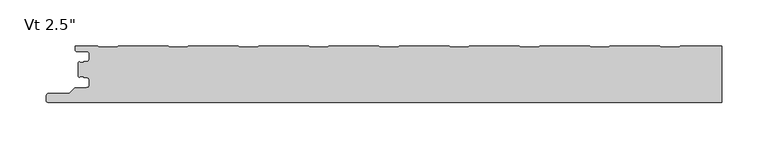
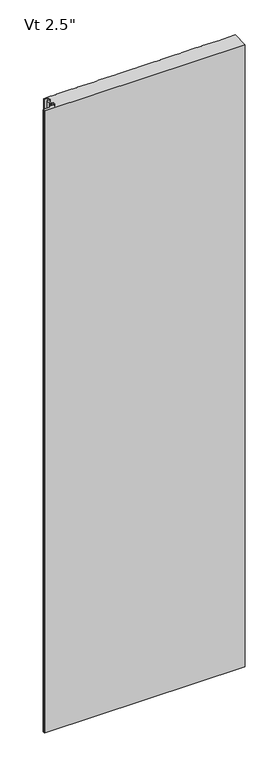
"""IFC4 building model written with IfcOpenShell, lengths in millimetres: plate geometry."""

import ifcopenshell
import ifcopenshell.guid

model = None  # the IFC model being written
_history = None  # IfcOwnerHistory: only IFC2X3 demands one
_inside = {}  # id of a spatial element -> (the spatial element, [elements in it])
_under = {}  # id of a project, library or spatial element -> (it, [spatial elements below it])
_declared = {}  # id of a project -> (the project, [libraries it declares])
_typed = {}  # id of a type object -> (the type object, [elements of that type])
_made_of = {}  # id of a material, layer set ... -> (it, [elements and type objects made of it])


def new_model(schema):
    """Start an empty IFC model of exactly this schema.

    Asked for "IFC4X3", IfcOpenShell would pick the latest addendum, in which some entities
    have other attributes; the version numbers below select the first issue.
    IFC2X3 requires an IfcOwnerHistory on every rooted entity: one is made here for all.
    """
    global model, _history
    if schema == "IFC4X3":
        model = ifcopenshell.file(schema_version=(4, 3, 0, 0))
    else:
        model = ifcopenshell.file(schema=schema)
    _inside.clear()
    _under.clear()
    _declared.clear()
    _typed.clear()
    _made_of.clear()
    _history = None
    if model.schema == "IFC2X3":
        org = make("IfcOrganization", Name="unknown")
        user = make(
            "IfcPersonAndOrganization",
            ThePerson=make("IfcPerson", FamilyName="unknown"),
            TheOrganization=org,
        )
        app = make(
            "IfcApplication",
            ApplicationDeveloper=org,
            Version="unknown",
            ApplicationFullName="unknown",
            ApplicationIdentifier="unknown",
        )
        _history = make(
            "IfcOwnerHistory",
            OwningUser=user,
            OwningApplication=app,
            ChangeAction="ADDED",
            CreationDate=0,
        )
    return model


def make(cls, **values):
    """One entity of the class cls with the attributes given. An attribute that is None is left unset."""
    return model.create_entity(
        cls, **{name: value for name, value in values.items() if value is not None}
    )


def rooted(cls, **values):
    """An entity with a GlobalId (a new one), such as an element, a storey or a relation."""
    return make(cls, GlobalId=ifcopenshell.guid.new(), OwnerHistory=_history, **values)


def si_unit(unit_type, name, prefix=None):
    """IfcSIUnit, for example si_unit("LENGTHUNIT", "METRE", prefix="MILLI")."""
    return make("IfcSIUnit", UnitType=unit_type, Prefix=prefix, Name=name)


def assignment(units):
    """IfcUnitAssignment: the units of a project."""
    return None if units is None else make("IfcUnitAssignment", Units=units)


def point(xyz):
    """IfcCartesianPoint."""
    return None if xyz is None else make("IfcCartesianPoint", Coordinates=xyz)


def direction(xyz):
    """IfcDirection."""
    return None if xyz is None else make("IfcDirection", DirectionRatios=xyz)


def frame(location, z_axis=None, x_axis=None):
    """IfcAxis2Placement3D, a coordinate frame: its origin and axes. An axis left out is left unset."""
    return make(
        "IfcAxis2Placement3D",
        Location=point(location),
        Axis=direction(z_axis),
        RefDirection=direction(x_axis),
    )


def origin():
    """The frame at (0, 0, 0) with its axes left unset."""
    return frame((0.0, 0.0, 0.0))


def place(relative_to, where):
    """IfcLocalPlacement: puts the frame where relative to a parent placement (None: the world)."""
    return make(
        "IfcLocalPlacement", PlacementRelTo=relative_to, RelativePlacement=where
    )


def context(
    kind, dimensions, precision=None, world=None, true_north=None, identifier=None
):
    """IfcGeometricRepresentationContext, for example the 3D "Model" context."""
    return make(
        "IfcGeometricRepresentationContext",
        ContextIdentifier=identifier,
        ContextType=kind,
        CoordinateSpaceDimension=dimensions,
        Precision=precision,
        WorldCoordinateSystem=world,
        TrueNorth=true_north,
    )


def project(units=None, contexts=None):
    """IfcProject with its units and contexts."""
    return rooted(
        "IfcProject",
        Name="project",
        RepresentationContexts=contexts,
        UnitsInContext=assignment(units),
    )


def spatial(cls, under=None, at=None, **own):
    """A site, building, storey or space (cls), placed at a placement, below another one or the project."""
    s = rooted(cls, ObjectPlacement=at, **own)
    if under is not None:
        _under.setdefault(under.id(), (under, []))[1].append(s)
    return s


def polyline(points):
    """IfcPolyline through the points."""
    return make("IfcPolyline", Points=[point(p) for p in points])


def circle_curve(where, radius):
    """IfcCircle in the frame where."""
    return make("IfcCircle", Position=where, Radius=radius)


def shape(context_of_items, identifier, shape_type, items):
    """IfcShapeRepresentation: the items that make up one representation, for example the "Body"."""
    return make(
        "IfcShapeRepresentation",
        ContextOfItems=context_of_items,
        RepresentationIdentifier=identifier,
        RepresentationType=shape_type,
        Items=items,
    )


def source(mapping_origin, context_of_items, identifier, shape_type, items):
    """IfcRepresentationMap: a shape defined once, which mapped items show again and again."""
    return make(
        "IfcRepresentationMap",
        MappingOrigin=mapping_origin,
        MappedRepresentation=shape(context_of_items, identifier, shape_type, items),
    )


def transform(
    local_origin,
    x_axis=None,
    y_axis=None,
    z_axis=None,
    scale=None,
    scale2=None,
    scale3=None,
    uniform=True,
):
    """IfcCartesianTransformationOperator3D, or its non-uniform kind. x_axis, y_axis, z_axis: its Axis1, 2, 3."""
    if uniform:
        return make(
            "IfcCartesianTransformationOperator3D",
            Axis1=direction(x_axis),
            Axis2=direction(y_axis),
            LocalOrigin=point(local_origin),
            Scale=scale,
            Axis3=direction(z_axis),
        )
    return make(
        "IfcCartesianTransformationOperator3DnonUniform",
        Axis1=direction(x_axis),
        Axis2=direction(y_axis),
        LocalOrigin=point(local_origin),
        Scale=scale,
        Axis3=direction(z_axis),
        Scale2=scale2,
        Scale3=scale3,
    )


def mapped(mapping_source, mapping_target):
    """IfcMappedItem: shows the shape of a source again, moved by a transform."""
    return make(
        "IfcMappedItem", MappingSource=mapping_source, MappingTarget=mapping_target
    )


def made_of(thing, what):
    """Note that an element or type object is made of a material, layer set ...; save() writes the relation."""
    if what is not None:
        _made_of.setdefault(what.id(), (what, []))[1].append(thing)
    return thing


def element(
    cls,
    number,
    at=None,
    inside=None,
    cuts=None,
    type_object=None,
    material=None,
    context=None,
    identifier="Body",
    shape_type=None,
    held_by="IfcProductDefinitionShape",
    body=None,
    shapes=None,
    **own,
):
    """One element of the class cls, such as IfcWall. Its Tag is "e" and its number.

    at: its placement. inside: the storey or other place that contains it. cuts: it is an
    opening in that element (IfcRelVoidsElement). A single representation is given by context,
    identifier, shape_type and body (its items); several are given by shapes. held_by: the class
    of the entity that holds the representations. save() writes the other relations.
    """
    e = rooted(cls, Tag="e%d" % number, ObjectPlacement=at, **own)
    if body is not None:
        shapes = [shape(context, identifier, shape_type, body)]
    if shapes is not None:
        e.Representation = make(held_by, Representations=shapes)
    if inside is not None:
        _inside.setdefault(inside.id(), (inside, []))[1].append(e)
    if cuts is not None:
        rooted(
            "IfcRelVoidsElement", RelatingBuildingElement=cuts, RelatedOpeningElement=e
        )
    if type_object is not None:
        _typed.setdefault(type_object.id(), (type_object, []))[1].append(e)
    return made_of(e, material)


def aggregate(whole, parts):
    """IfcRelAggregates: a whole, such as a stair, and the parts it consists of."""
    return rooted("IfcRelAggregates", RelatingObject=whole, RelatedObjects=parts)


def save(model, path):
    """Write the relations noted so far, then the file.

    IfcRelAggregates (storeys below a building ...), IfcRelContainedInSpatialStructure (elements
    in a storey), IfcRelDefinesByType, IfcRelAssociatesMaterial and IfcRelDeclares: one each for
    every whole, place, type object, material and project.
    """
    for whole, parts in _under.values():
        aggregate(whole, parts)
    for where, things in _inside.values():
        rooted(
            "IfcRelContainedInSpatialStructure",
            RelatedElements=things,
            RelatingStructure=where,
        )
    for kind, things in _typed.values():
        rooted("IfcRelDefinesByType", RelatedObjects=things, RelatingType=kind)
    for what, things in _made_of.values():
        rooted("IfcRelAssociatesMaterial", RelatedObjects=things, RelatingMaterial=what)
    for by, libraries in _declared.values():
        rooted("IfcRelDeclares", RelatingContext=by, RelatedDefinitions=libraries)
    model.write(path)


def plane_surface(at):
    """IfcPlane: the flat surface through the origin of the frame at, square to its z axis."""
    return make("IfcPlane", Position=at)


def cylinder_surface(at, radius):
    """IfcCylindricalSurface: all points at the distance radius from the z axis of the frame at."""
    return make("IfcCylindricalSurface", Position=at, Radius=radius)


def revolved_surface(curve, axis_point, axis_direction):
    """IfcSurfaceOfRevolution: the curve turned about the line through axis_point along axis_direction."""
    return make(
        "IfcSurfaceOfRevolution",
        SweptCurve=make("IfcArbitraryOpenProfileDef", ProfileType="CURVE", Curve=curve),
        AxisPosition=make("IfcAxis1Placement", Location=point(axis_point), Axis=direction(axis_direction)),
    )


def advanced_brep(points, edges, surfaces, faces):
    """IfcAdvancedBrep: a solid bounded by faces that lie on surfaces and meet in shared edges.

    An edge is (start, end): straight between two places in points (the first is 0);
    or (start, end, curve); or (start, end, curve, False) where it runs against its curve.
    A face is (place in surfaces, loops), or (place, loops, False) where it looks against
    its surface's normal. A loop lists edges by number (the first is 1), with a minus sign
    where the edge is run from its end to its start. The first loop is the outer one.
    """
    corners = [point(p) for p in points]
    vertices = [make("IfcVertexPoint", VertexGeometry=c) for c in corners]
    made = []
    for start, end, *more in edges:
        made.append(
            make(
                "IfcEdgeCurve",
                EdgeStart=vertices[start],
                EdgeEnd=vertices[end],
                EdgeGeometry=more[0] if more else make("IfcPolyline", Points=[corners[start], corners[end]]),
                SameSense=more[1] if len(more) > 1 else True,
            )
        )
    hull = []
    for where, loops, *sense in faces:
        bounds = []
        for j, loop in enumerate(loops):
            ring = [make("IfcOrientedEdge", EdgeElement=made[abs(k) - 1], Orientation=k > 0) for k in loop]
            bounds.append(
                make(
                    "IfcFaceOuterBound" if j == 0 else "IfcFaceBound",
                    Bound=make("IfcEdgeLoop", EdgeList=ring),
                    Orientation=True,
                )
            )
        hull.append(make("IfcAdvancedFace", Bounds=bounds, FaceSurface=surfaces[where], SameSense=sense[0] if sense else True))
    return make("IfcAdvancedBrep", Outer=make("IfcClosedShell", CfsFaces=hull))


def plate_7b83431e(model_context):
    return source(origin(), model_context, "Body", "AdvancedBrep", [
        advanced_brep(
        [(-347.9683, -35.1708793, 2400.0), (-346.767176, -34.0014045, 2400.0), (-343.0087826, -34.0014045, 2400.0), (-343.0087826, -35.3998834, 2400.0), (-340.3096715, -35.3998834, 2400.0), (-336.9596762, -38.7498787, 2400.0), (-336.9596762, -43.1498699, 2400.0), (-340.3096715, -46.4998652, 2400.0), (-352.1205606, -46.4998652, 2400.0), (-353.3226383, -46.9977821, 2400.0), (-358.8247094, -52.4998532, 2400.0), (-380.9198391, -52.4998532, 2400.0), (-383.5765707, -54.7184552, 2400.0), (-384.0125697, -59.7002761, 2400.0), (-381.4521175, -62.494601, 2400.0), (348.9999998, -62.5000043, 2400.0), (348.9999998, -1.0000043, 2400.0), (303.7792489, -1.0000043, 2400.0), (302.3936159, -2.200235, 2400.0), (283.0184496, -2.200235, 2400.0), (281.6328167, -1.0000043, 2400.0), (227.5794013, -1.0000043, 2400.0), (226.1937683, -2.200235, 2400.0), (206.818602, -2.200235, 2400.0), (205.4329691, -1.0000043, 2400.0), (151.3795537, -1.0000043, 2400.0), (149.9939207, -2.200235, 2400.0), (130.6187544, -2.200235, 2400.0), (129.2331215, -1.0000043, 2400.0), (75.1797061, -1.0000043, 2400.0), (73.7940731, -2.200235, 2400.0), (54.4189068, -2.200235, 2400.0), (53.0332739, -1.0000043, 2400.0), (-1.0201415, -1.0000043, 2400.0), (-2.4057745, -2.200235, 2400.0), (-21.7809408, -2.200235, 2400.0), (-23.1665737, -1.0000043, 2400.0), (-77.2199891, -1.0000043, 2400.0), (-78.6056221, -2.200235, 2400.0), (-97.9807884, -2.200235, 2400.0), (-99.3664213, -1.0000043, 2400.0), (-153.4198367, -1.0000043, 2400.0), (-154.8054697, -2.200235, 2400.0), (-174.180636, -2.200235, 2400.0), (-175.5662689, -1.0000043, 2400.0), (-229.6196843, -1.0000043, 2400.0), (-231.0053173, -2.200235, 2400.0), (-250.3804836, -2.200235, 2400.0), (-251.7661165, -1.0000043, 2400.0), (-305.8195319, -1.0000043, 2400.0), (-307.2051649, -2.200235, 2400.0), (-326.5803312, -2.200235, 2400.0), (-327.9659738, -0.9999959, 2400.0), (-352.4662504, -0.9999959, 2400.0), (-352.4662504, -5.2315432, 2400.0), (-350.6962562, -7.0015374, 2400.0), (-340.2762777, -7.0015374, 2400.0), (-336.9762818, -10.3015333, 2400.0), (-336.9762818, -14.7015245, 2400.0), (-340.2762775, -18.0015202, 2400.0), (-342.9684873, -18.0015202, 2400.0), (-342.9684873, -19.0015147, 2400.0), (-346.968691, -19.0015147, 2400.0), (-347.9686882, -18.0015235, 2400.0), (-348.9999998, -19.0328351, 2400.0), (-348.9999998, -34.1391794, 2400.0), (-347.9683, -35.1708793, 0.0), (-348.9999998, -34.1391794, 0.0), (-348.9999998, -19.0328351, 0.0), (-347.9686882, -18.0015235, 0.0), (-346.968691, -19.0015147, 0.0), (-342.9684873, -19.0015147, 0.0), (-342.9684873, -18.0015202, 0.0), (-340.2762775, -18.0015202, 0.0), (-336.9762818, -14.7015245, 0.0), (-336.9762818, -10.3015333, 0.0), (-340.2762777, -7.0015374, 0.0), (-350.6962562, -7.0015374, 0.0), (-352.4662504, -5.2315432, 0.0), (-352.4662504, -0.9999959, 0.0), (-327.9659738, -0.9999959, 0.0), (-326.5803312, -2.200235, 0.0), (-307.2051649, -2.200235, 0.0), (-305.8195319, -1.0000043, 0.0), (-251.7661165, -1.0000043, 0.0), (-250.3804836, -2.200235, 0.0), (-231.0053173, -2.200235, 0.0), (-229.6196843, -1.0000043, 0.0), (-175.5662689, -1.0000043, 0.0), (-174.180636, -2.200235, 0.0), (-154.8054697, -2.200235, 0.0), (-153.4198367, -1.0000043, 0.0), (-99.3664213, -1.0000043, 0.0), (-97.9807884, -2.200235, 0.0), (-78.6056221, -2.200235, 0.0), (-77.2199891, -1.0000043, 0.0), (-23.1665737, -1.0000043, 0.0), (-21.7809408, -2.200235, 0.0), (-2.4057745, -2.200235, 0.0), (-1.0201415, -1.0000043, 0.0), (53.0332739, -1.0000043, 0.0), (54.4189068, -2.200235, 0.0), (73.7940731, -2.200235, 0.0), (75.1797061, -1.0000043, 0.0), (129.2331215, -1.0000043, 0.0), (130.6187544, -2.200235, 0.0), (149.9939207, -2.200235, 0.0), (151.3795537, -1.0000043, 0.0), (205.4329691, -1.0000043, 0.0), (206.818602, -2.200235, 0.0), (226.1937683, -2.200235, 0.0), (227.5794013, -1.0000043, 0.0), (281.6328167, -1.0000043, 0.0), (283.0184496, -2.200235, 0.0), (302.3936159, -2.200235, 0.0), (303.7792489, -1.0000043, 0.0), (348.9999998, -1.0000043, 0.0), (348.9999998, -62.5000043, 0.0), (-381.4521175, -62.5000043, 0.0), (-384.0125697, -59.7002761, 0.0), (-383.5765707, -54.7184552, 0.0), (-380.9198391, -52.4998532, 0.0), (-358.8247094, -52.4998532, 0.0), (-353.3226383, -46.9977821, 0.0), (-352.1205606, -46.4998652, 0.0), (-340.3096715, -46.4998652, 0.0), (-336.9596762, -43.1498699, 0.0), (-336.9596762, -38.7498787, 0.0), (-340.3096715, -35.3998834, 0.0), (-343.0087826, -35.3998834, 0.0), (-343.0087826, -34.0014045, 0.0), (-346.767176, -34.0014045, 0.0)],
        [
            (0, 1, circle_curve(frame((-346.7686906, -35.2014012, 2400.0), z_axis=(0.0, 0.0, -1.0), x_axis=(-1.0, 0.0, 0.0)), 1.1999976)),
            (1, 2),
            (2, 3),
            (3, 4),
            (4, 5, circle_curve(frame((-340.3096715, -38.7498787, 2400.0), z_axis=(0.0, 0.0, -1.0), x_axis=(-1.0, 0.0, 0.0)), 3.3499953)),
            (5, 6),
            (6, 7, circle_curve(frame((-340.3096715, -43.1498699, 2400.0), z_axis=(0.0, 0.0, -1.0), x_axis=(-1.0, 0.0, 0.0)), 3.3499953)),
            (7, 8),
            (8, 9, circle_curve(frame((-352.1205606, -48.1998598, 2400.0), z_axis=(0.0, 0.0, 1.0), x_axis=(-1.0, 0.0, 0.0)), 1.6999946)),
            (9, 10),
            (10, 11),
            (11, 12, circle_curve(frame((-380.9198391, -55.1998458, 2400.0), z_axis=(0.0, 0.0, 1.0), x_axis=(-1.0, 0.0, 0.0)), 2.6999926)),
            (12, 13),
            (13, 14, circle_curve(frame((-381.4521175, -59.9243617, 2400.0), z_axis=(0.0, 0.0, 1.0), x_axis=(-1.0, 0.0, 0.0)), 2.5702393)),
            (14, 15),
            (15, 16),
            (16, 17),
            (17, 18),
            (18, 19),
            (19, 20),
            (20, 21),
            (21, 22),
            (22, 23),
            (23, 24),
            (24, 25),
            (25, 26),
            (26, 27),
            (27, 28),
            (28, 29),
            (29, 30),
            (30, 31),
            (31, 32),
            (32, 33),
            (33, 34),
            (34, 35),
            (35, 36),
            (36, 37),
            (37, 38),
            (38, 39),
            (39, 40),
            (40, 41),
            (41, 42),
            (42, 43),
            (43, 44),
            (44, 45),
            (45, 46),
            (46, 47),
            (47, 48),
            (48, 49),
            (49, 50),
            (50, 51),
            (51, 52),
            (52, 53),
            (53, 54),
            (54, 55, circle_curve(frame((-350.6962562, -5.2315432, 2400.0), z_axis=(0.0, 0.0, 1.0), x_axis=(1.0, 0.0, 0.0)), 1.7699942)),
            (55, 56),
            (56, 57, circle_curve(frame((-340.2762777, -10.3015333, 2400.0), z_axis=(0.0, 0.0, -1.0), x_axis=(1.0, 0.0, 0.0)), 3.2999959)),
            (57, 58),
            (58, 59, circle_curve(frame((-340.2762775, -14.7015245, 2400.0), z_axis=(0.0, 0.0, -1.0), x_axis=(1.0, 0.0, 0.0)), 3.2999957)),
            (59, 60),
            (60, 61),
            (61, 62),
            (62, 63, circle_curve(frame((-346.968691, -18.0015175, 2400.0), z_axis=(0.0, 0.0, -1.0), x_axis=(1.0, 0.0, 0.0)), 0.9999972)),
            (63, 64),
            (64, 65),
            (65, 0),
            (66, 67),
            (67, 68),
            (68, 69),
            (69, 70, circle_curve(frame((-346.968691, -18.0015175, 0.0), z_axis=(0.0, 0.0, 1.0), x_axis=(1.0, 0.0, 0.0)), 0.9999972)),
            (70, 71),
            (71, 72),
            (72, 73),
            (73, 74, circle_curve(frame((-340.2762775, -14.7015245, 0.0), z_axis=(0.0, 0.0, 1.0), x_axis=(1.0, 0.0, 0.0)), 3.2999957)),
            (74, 75),
            (75, 76, circle_curve(frame((-340.2762777, -10.3015333, 0.0), z_axis=(0.0, 0.0, 1.0), x_axis=(1.0, 0.0, 0.0)), 3.2999959)),
            (76, 77),
            (77, 78, circle_curve(frame((-350.6962562, -5.2315432, 0.0), z_axis=(0.0, 0.0, -1.0), x_axis=(1.0, 0.0, 0.0)), 1.7699942)),
            (78, 79),
            (79, 80),
            (80, 81),
            (81, 82),
            (82, 83),
            (83, 84),
            (84, 85),
            (85, 86),
            (86, 87),
            (87, 88),
            (88, 89),
            (89, 90),
            (90, 91),
            (91, 92),
            (92, 93),
            (93, 94),
            (94, 95),
            (95, 96),
            (96, 97),
            (97, 98),
            (98, 99),
            (99, 100),
            (100, 101),
            (101, 102),
            (102, 103),
            (103, 104),
            (104, 105),
            (105, 106),
            (106, 107),
            (107, 108),
            (108, 109),
            (109, 110),
            (110, 111),
            (111, 112),
            (112, 113),
            (113, 114),
            (114, 115),
            (115, 116),
            (116, 117),
            (117, 118),
            (118, 119, circle_curve(frame((-381.4521175, -59.9243617, 0.0), z_axis=(0.0, 0.0, -1.0), x_axis=(-1.0, 0.0, 0.0)), 2.5702393)),
            (119, 120),
            (120, 121, circle_curve(frame((-380.9198391, -55.1998458, 0.0), z_axis=(0.0, 0.0, -1.0), x_axis=(-1.0, 0.0, 0.0)), 2.6999926)),
            (121, 122),
            (122, 123),
            (123, 124, circle_curve(frame((-352.1205606, -48.1998598, 0.0), z_axis=(0.0, 0.0, -1.0), x_axis=(-1.0, 0.0, 0.0)), 1.6999946)),
            (124, 125),
            (125, 126, circle_curve(frame((-340.3096715, -43.1498699, 0.0), z_axis=(0.0, 0.0, 1.0), x_axis=(-1.0, 0.0, 0.0)), 3.3499953)),
            (126, 127),
            (127, 128, circle_curve(frame((-340.3096715, -38.7498787, 0.0), z_axis=(0.0, 0.0, 1.0), x_axis=(-1.0, 0.0, 0.0)), 3.3499953)),
            (128, 129),
            (129, 130),
            (130, 131),
            (131, 66, circle_curve(frame((-346.7686906, -35.2014012, 0.0), z_axis=(0.0, 0.0, 1.0), x_axis=(-1.0, 0.0, 0.0)), 1.1999976)),
            (65, 67),
            (66, 0),
            (64, 68),
            (117, 15),
            (14, 118),
            (13, 119),
            (12, 120),
            (11, 121),
            (10, 122),
            (9, 123),
            (8, 124),
            (7, 125),
            (6, 126),
            (5, 127),
            (4, 128),
            (3, 129),
            (2, 130),
            (1, 131),
            (116, 16),
            (63, 69),
            (62, 70),
            (61, 71),
            (60, 72),
            (59, 73),
            (58, 74),
            (57, 75),
            (56, 76),
            (55, 77),
            (54, 78),
            (53, 79),
            (52, 80),
            (51, 81),
            (50, 82),
            (49, 83),
            (48, 84),
            (47, 85),
            (46, 86),
            (45, 87),
            (44, 88),
            (43, 89),
            (42, 90),
            (41, 91),
            (40, 92),
            (39, 93),
            (38, 94),
            (37, 95),
            (36, 96),
            (35, 97),
            (34, 98),
            (33, 99),
            (32, 100),
            (31, 101),
            (30, 102),
            (29, 103),
            (28, 104),
            (27, 105),
            (26, 106),
            (25, 107),
            (24, 108),
            (23, 109),
            (22, 110),
            (21, 111),
            (20, 112),
            (19, 113),
            (18, 114),
            (17, 115),
        ],
        [
            plane_surface(frame((32.0000002, -62.5000043, 2400.0), z_axis=(0.0, 0.0, 1.0), x_axis=(0.0, -1.0, 0.0))),
            plane_surface(frame((32.0000002, -62.5000043, 0.0), z_axis=(0.0, 0.0, -1.0), x_axis=(0.0, -1.0, 0.0))),
            plane_surface(frame((-347.9683, -35.1708793, 2400.0), z_axis=(-0.7071067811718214, -0.7071067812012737, 0.0), x_axis=(0.0, 0.0, -1.0))),
            plane_surface(frame((-348.9999998, -34.1391794, 2400.0), z_axis=(-1.0, 0.0, 0.0), x_axis=(0.0, 0.0, -1.0))),
            plane_surface(frame((364.5156221, -62.5000043, 2400.0), z_axis=(0.0, -1.0, 0.0), x_axis=(0.0, 0.0, -1.0))),
            cylinder_surface(frame((-381.4521175, -59.9243617, 2400.0), z_axis=(0.0, 0.0, 1.0), x_axis=(-1.0, 0.0, 0.0)), 2.5702393),
            plane_surface(frame((-384.0125697, -59.7002761, 2400.0), z_axis=(-0.9961921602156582, 0.08718474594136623, 0.0), x_axis=(0.0, 0.0, -1.0))),
            cylinder_surface(frame((-380.9198391, -55.1998458, 2400.0), z_axis=(0.0, 0.0, 1.0), x_axis=(-1.0, 0.0, 0.0)), 2.6999926),
            plane_surface(frame((-380.9198391, -52.4998532, 2400.0), z_axis=(0.0, 1.0, 0.0), x_axis=(0.0, 0.0, -1.0))),
            plane_surface(frame((-358.8247094, -52.4998532, 2400.0), z_axis=(-0.7071067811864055, 0.7071067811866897, 0.0), x_axis=(0.0, 0.0, -1.0))),
            cylinder_surface(frame((-352.1205606, -48.1998598, 2400.0), z_axis=(0.0, 0.0, 1.0), x_axis=(-1.0, 0.0, 0.0)), 1.6999946),
            plane_surface(frame((-352.1205606, -46.4998652, 2400.0), z_axis=(0.0, 1.0, 0.0), x_axis=(0.0, 0.0, -1.0))),
            revolved_surface(polyline([(-343.65966679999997, -43.1498699, 0.0), (-343.65966679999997, -43.1498699, 2400.0)]), (-340.3096715, -43.1498699, 2400.0), (0.0, 0.0, -1.0)),
            plane_surface(frame((-336.9596762, -43.1498699, 2400.0), z_axis=(-1.0, 0.0, 0.0), x_axis=(0.0, 0.0, -1.0))),
            revolved_surface(polyline([(-343.65966679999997, -38.7498787, 0.0), (-343.65966679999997, -38.7498787, 2400.0)]), (-340.3096715, -38.7498787, 2400.0), (0.0, 0.0, -1.0)),
            plane_surface(frame((-340.3096715, -35.3998834, 2400.0), z_axis=(0.0, -1.0, 0.0), x_axis=(0.0, 0.0, -1.0))),
            plane_surface(frame((-343.0087826, -35.3998834, 2400.0), z_axis=(-1.0, 0.0, 0.0), x_axis=(0.0, 0.0, -1.0))),
            plane_surface(frame((-343.0087826, -34.0014045, 2400.0), z_axis=(0.0, -1.0, 0.0), x_axis=(0.0, 0.0, -1.0))),
            revolved_surface(polyline([(-347.96868820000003, -35.2014012, 0.0), (-347.96868820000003, -35.2014012, 2400.0)]), (-346.7686906, -35.2014012, 2400.0), (0.0, 0.0, -1.0)),
            plane_surface(frame((348.9999998, -73.5000043, 2400.0), z_axis=(1.0, 0.0, 0.0), x_axis=(0.0, 0.0, -1.0))),
            plane_surface(frame((-348.9999998, -19.0328351, 2400.0), z_axis=(-0.7071067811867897, 0.7071067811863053, 0.0), x_axis=(0.0, 0.0, -1.0))),
            revolved_surface(polyline([(-345.9686938, -18.0015175, 0.0), (-345.9686938, -18.0015175, 2400.0)]), (-346.968691, -18.0015175, 2400.0), (0.0, 0.0, -1.0)),
            plane_surface(frame((-346.968691, -19.0015147, 2400.0), z_axis=(0.0, 1.0, 0.0), x_axis=(0.0, 0.0, -1.0))),
            plane_surface(frame((-342.9684873, -19.0015147, 2400.0), z_axis=(-1.0, 0.0, 0.0), x_axis=(0.0, 0.0, -1.0))),
            plane_surface(frame((-342.9684873, -18.0015202, 2400.0), z_axis=(0.0, 1.0, 0.0), x_axis=(0.0, 0.0, -1.0))),
            revolved_surface(polyline([(-336.9762818, -14.7015245, 0.0), (-336.9762818, -14.7015245, 2400.0)]), (-340.2762775, -14.7015245, 2400.0), (0.0, 0.0, -1.0)),
            plane_surface(frame((-336.9762818, -14.7015245, 2400.0), z_axis=(-1.0, 0.0, 0.0), x_axis=(0.0, 0.0, -1.0))),
            revolved_surface(polyline([(-336.9762818, -10.3015333, 0.0), (-336.9762818, -10.3015333, 2400.0)]), (-340.2762777, -10.3015333, 2400.0), (0.0, 0.0, -1.0)),
            plane_surface(frame((-340.2762777, -7.0015374, 2400.0), z_axis=(0.0, -1.0, 0.0), x_axis=(0.0, 0.0, -1.0))),
            cylinder_surface(frame((-350.6962562, -5.2315432, 2400.0), z_axis=(0.0, 0.0, 1.0), x_axis=(1.0, 0.0, 0.0)), 1.7699942),
            plane_surface(frame((-352.4662504, -5.2315432, 2400.0), z_axis=(-1.0, 0.0, 0.0), x_axis=(0.0, 0.0, -1.0))),
            plane_surface(frame((-352.4662504, -0.9999959, 2400.0), z_axis=(0.0, 1.0, 0.0), x_axis=(0.0, 0.0, -1.0))),
            plane_surface(frame((-327.9659738, -0.9999959, 2400.0), z_axis=(0.6547276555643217, 0.755864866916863, 0.0), x_axis=(0.0, 0.0, -1.0))),
            plane_surface(frame((-326.5803312, -2.200235, 2400.0), z_axis=(0.0, 1.0, 0.0), x_axis=(0.0, 0.0, -1.0))),
            plane_surface(frame((-307.2051649, -2.200235, 2400.0), z_axis=(-0.6547276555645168, 0.755864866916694, 0.0), x_axis=(0.0, 0.0, -1.0))),
            plane_surface(frame((-305.8195319, -1.0000043, 2400.0), z_axis=(0.0, 1.0, 0.0), x_axis=(0.0, 0.0, -1.0))),
            plane_surface(frame((-251.7661165, -1.0000043, 2400.0), z_axis=(0.6547276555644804, 0.7558648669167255, 0.0), x_axis=(0.0, 0.0, -1.0))),
            plane_surface(frame((-250.3804836, -2.200235, 2400.0), z_axis=(0.0, 1.0, 0.0), x_axis=(0.0, 0.0, -1.0))),
            plane_surface(frame((-231.0053173, -2.200235, 2400.0), z_axis=(-0.6547276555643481, 0.7558648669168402, 0.0), x_axis=(0.0, 0.0, -1.0))),
            plane_surface(frame((-229.6196843, -1.0000043, 2400.0), z_axis=(0.0, 1.0, 0.0), x_axis=(0.0, 0.0, -1.0))),
            plane_surface(frame((-175.5662689, -1.0000043, 2400.0), z_axis=(0.6547276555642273, 0.7558648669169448, 0.0), x_axis=(0.0, 0.0, -1.0))),
            plane_surface(frame((-174.180636, -2.200235, 2400.0), z_axis=(0.0, 1.0, 0.0), x_axis=(0.0, 0.0, -1.0))),
            plane_surface(frame((-154.8054697, -2.200235, 2400.0), z_axis=(-0.6547276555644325, 0.755864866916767, 0.0), x_axis=(0.0, 0.0, -1.0))),
            plane_surface(frame((-153.4198367, -1.0000043, 2400.0), z_axis=(0.0, 1.0, 0.0), x_axis=(0.0, 0.0, -1.0))),
            plane_surface(frame((-99.3664213, -1.0000043, 2400.0), z_axis=(0.6547276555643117, 0.7558648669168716, 0.0), x_axis=(0.0, 0.0, -1.0))),
            plane_surface(frame((-97.9807884, -2.200235, 2400.0), z_axis=(0.0, 1.0, 0.0), x_axis=(0.0, 0.0, -1.0))),
            plane_surface(frame((-78.6056221, -2.200235, 2400.0), z_axis=(-0.6547276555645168, 0.755864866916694, 0.0), x_axis=(0.0, 0.0, -1.0))),
            plane_surface(frame((-77.2199891, -1.0000043, 2400.0), z_axis=(0.0, 1.0, 0.0), x_axis=(0.0, 0.0, -1.0))),
            plane_surface(frame((-23.1665737, -1.0000043, 2400.0), z_axis=(0.654727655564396, 0.7558648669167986, 0.0), x_axis=(0.0, 0.0, -1.0))),
            plane_surface(frame((-21.7809408, -2.200235, 2400.0), z_axis=(0.0, 1.0, 0.0), x_axis=(0.0, 0.0, -1.0))),
            plane_surface(frame((-2.4057745, -2.200235, 2400.0), z_axis=(-0.6547276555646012, 0.7558648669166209, 0.0), x_axis=(0.0, 0.0, -1.0))),
            plane_surface(frame((-1.0201415, -1.0000043, 2400.0), z_axis=(0.0, 1.0, 0.0), x_axis=(0.0, 0.0, -1.0))),
            plane_surface(frame((53.0332739, -1.0000043, 2400.0), z_axis=(0.6547276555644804, 0.7558648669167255, 0.0), x_axis=(0.0, 0.0, -1.0))),
            plane_surface(frame((54.4189068, -2.200235, 2400.0), z_axis=(0.0, 1.0, 0.0), x_axis=(0.0, 0.0, -1.0))),
            plane_surface(frame((73.7940731, -2.200235, 2400.0), z_axis=(-0.65472765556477, 0.7558648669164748, 0.0), x_axis=(0.0, 0.0, -1.0))),
            plane_surface(frame((75.1797061, -1.0000043, 2400.0), z_axis=(0.0, 1.0, 0.0), x_axis=(0.0, 0.0, -1.0))),
            plane_surface(frame((129.2331215, -1.0000043, 2400.0), z_axis=(0.6547276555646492, 0.7558648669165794, 0.0), x_axis=(0.0, 0.0, -1.0))),
            plane_surface(frame((130.6187544, -2.200235, 2400.0), z_axis=(0.0, 1.0, 0.0), x_axis=(0.0, 0.0, -1.0))),
            plane_surface(frame((149.9939207, -2.200235, 2400.0), z_axis=(-0.65472765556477, 0.7558648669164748, 0.0), x_axis=(0.0, 0.0, -1.0))),
            plane_surface(frame((151.3795537, -1.0000043, 2400.0), z_axis=(0.0, 1.0, 0.0), x_axis=(0.0, 0.0, -1.0))),
            plane_surface(frame((205.4329691, -1.0000043, 2400.0), z_axis=(0.6547276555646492, 0.7558648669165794, 0.0), x_axis=(0.0, 0.0, -1.0))),
            plane_surface(frame((206.818602, -2.200235, 2400.0), z_axis=(0.0, 1.0, 0.0), x_axis=(0.0, 0.0, -1.0))),
            plane_surface(frame((226.1937683, -2.200235, 2400.0), z_axis=(-0.6547276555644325, 0.755864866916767, 0.0), x_axis=(0.0, 0.0, -1.0))),
            plane_surface(frame((227.5794013, -1.0000043, 2400.0), z_axis=(0.0, 1.0, 0.0), x_axis=(0.0, 0.0, -1.0))),
            plane_surface(frame((281.6328167, -1.0000043, 2400.0), z_axis=(0.6547276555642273, 0.7558648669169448, 0.0), x_axis=(0.0, 0.0, -1.0))),
            plane_surface(frame((283.0184496, -2.200235, 2400.0), z_axis=(0.0, 1.0, 0.0), x_axis=(0.0, 0.0, -1.0))),
            plane_surface(frame((302.3936159, -2.200235, 2400.0), z_axis=(-0.6547276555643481, 0.7558648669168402, 0.0), x_axis=(0.0, 0.0, -1.0))),
            plane_surface(frame((303.7792489, -1.0000043, 2400.0), z_axis=(0.0, 1.0, 0.0), x_axis=(0.0, 0.0, -1.0))),
        ],
        [
            (0, [[1, 2, 3, 4, 5, 6, 7, 8, 9, 10, 11, 12, 13, 14, 15, 16, 17, 18, 19, 20, 21, 22, 23, 24, 25, 26, 27, 28, 29, 30, 31, 32, 33, 34, 35, 36, 37, 38, 39, 40, 41, 42, 43, 44, 45, 46, 47, 48, 49, 50, 51, 52, 53, 54, 55, 56, 57, 58, 59, 60, 61, 62, 63, 64, 65, 66]]),
            (1, [[67, 68, 69, 70, 71, 72, 73, 74, 75, 76, 77, 78, 79, 80, 81, 82, 83, 84, 85, 86, 87, 88, 89, 90, 91, 92, 93, 94, 95, 96, 97, 98, 99, 100, 101, 102, 103, 104, 105, 106, 107, 108, 109, 110, 111, 112, 113, 114, 115, 116, 117, 118, 119, 120, 121, 122, 123, 124, 125, 126, 127, 128, 129, 130, 131, 132]]),
            (2, [[133, -67, 134, -66]]),
            (3, [[-65, 135, -68, -133]]),
            (4, [[-118, 136, -15, 137]]),
            (5, [[138, -119, -137, -14]]),
            (6, [[139, -120, -138, -13]]),
            (7, [[140, -121, -139, -12]]),
            (8, [[141, -122, -140, -11]]),
            (9, [[142, -123, -141, -10]]),
            (10, [[143, -124, -142, -9]]),
            (11, [[144, -125, -143, -8]]),
            (12, [[145, -126, -144, -7]]),
            (13, [[146, -127, -145, -6]]),
            (14, [[147, -128, -146, -5]]),
            (15, [[148, -129, -147, -4]]),
            (16, [[149, -130, -148, -3]]),
            (17, [[150, -131, -149, -2]]),
            (18, [[-134, -132, -150, -1]]),
            (19, [[-136, -117, 151, -16]]),
            (20, [[152, -69, -135, -64]]),
            (21, [[153, -70, -152, -63]]),
            (22, [[154, -71, -153, -62]]),
            (23, [[155, -72, -154, -61]]),
            (24, [[156, -73, -155, -60]]),
            (25, [[157, -74, -156, -59]]),
            (26, [[158, -75, -157, -58]]),
            (27, [[159, -76, -158, -57]]),
            (28, [[160, -77, -159, -56]]),
            (29, [[161, -78, -160, -55]]),
            (30, [[162, -79, -161, -54]]),
            (31, [[163, -80, -162, -53]]),
            (32, [[164, -81, -163, -52]]),
            (33, [[165, -82, -164, -51]]),
            (34, [[166, -83, -165, -50]]),
            (35, [[167, -84, -166, -49]]),
            (36, [[168, -85, -167, -48]]),
            (37, [[169, -86, -168, -47]]),
            (38, [[170, -87, -169, -46]]),
            (39, [[171, -88, -170, -45]]),
            (40, [[172, -89, -171, -44]]),
            (41, [[173, -90, -172, -43]]),
            (42, [[174, -91, -173, -42]]),
            (43, [[175, -92, -174, -41]]),
            (44, [[176, -93, -175, -40]]),
            (45, [[177, -94, -176, -39]]),
            (46, [[178, -95, -177, -38]]),
            (47, [[179, -96, -178, -37]]),
            (48, [[180, -97, -179, -36]]),
            (49, [[181, -98, -180, -35]]),
            (50, [[182, -99, -181, -34]]),
            (51, [[183, -100, -182, -33]]),
            (52, [[184, -101, -183, -32]]),
            (53, [[185, -102, -184, -31]]),
            (54, [[186, -103, -185, -30]]),
            (55, [[187, -104, -186, -29]]),
            (56, [[188, -105, -187, -28]]),
            (57, [[189, -106, -188, -27]]),
            (58, [[190, -107, -189, -26]]),
            (59, [[191, -108, -190, -25]]),
            (60, [[192, -109, -191, -24]]),
            (61, [[193, -110, -192, -23]]),
            (62, [[194, -111, -193, -22]]),
            (63, [[195, -112, -194, -21]]),
            (64, [[196, -113, -195, -20]]),
            (65, [[197, -114, -196, -19]]),
            (66, [[198, -115, -197, -18]]),
            (67, [[-17, -151, -116, -198]]),
        ],
    ),
    ])


if __name__ == "__main__":
    model = new_model("IFC4")
    model_context = context("Model", 3, world=origin())
    ifc_project = project(units=[si_unit("LENGTHUNIT", "METRE", prefix="MILLI")], contexts=[model_context])
    site = spatial("IfcSite", under=ifc_project)
    building = spatial("IfcBuilding", under=site)
    placement = place(None, origin())
    plate_shape = plate_7b83431e(model_context)
    element("IfcPlate", 1, ObjectType="KIP-30-Karrier-KP-R19-CP-Vt-FL3-8_SL : Vt 2.5\"", at=placement, inside=building, context=model_context, shape_type="MappedRepresentation", body=[
        mapped(plate_shape, transform((0.0, 0.0, 0.0), x_axis=(1.0, 0.0, 0.0), y_axis=(0.0, 1.0, 0.0), z_axis=(0.0, 0.0, 1.0))),
    ])
    save(model, "model.ifc")
